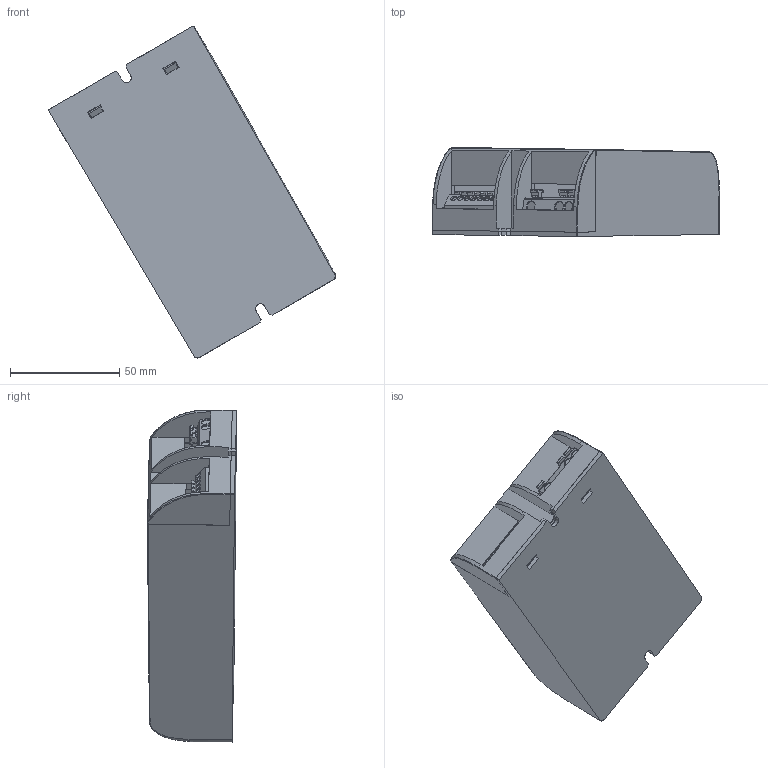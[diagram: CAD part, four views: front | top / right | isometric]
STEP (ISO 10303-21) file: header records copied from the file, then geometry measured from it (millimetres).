
FILE_DESCRIPTION((''),'2;1');
FILE_NAME('EUCI-0XX105GIA_ASS-20230703_ASM','2023-07-03T17:21:44',('HUNGCHI.CHEN'),(''),'CREO PARAMETRIC BY PTC INC, 2020053','CREO PARAMETRIC BY PTC INC, 2020053','');
FILE_SCHEMA(('CONFIG_CONTROL_DESIGN'));
Products named in the file (48): BOARD-593; 3411000700; J102_ASM; CY100_AF0_ASM; 1511442002_0603-SCE-C-10990_1; 1511442002_0603-SCE-C-10990_2; 1511442002_0603-SCE-C-10990_3; 1511442002_0603-SCE-C-10990_ASM; C118_1_ASM; 0341083342_0603-15-12230_1; 0341083342_0603-15-12230_2; 0341083342_0603-15-12230_3; 0341083342_0603-15-12230_4; 0341083342_0603-15-12230_ASM; R118_1_ASM; R117_1_ASM; FCM1608_1_2_1; FCM1608_1_2_2; FCM1608_1_2_3; FCM1608_1_2_ASM; FB110_ASM; FB109_ASM; 0331147506_2512_1_2_1; 0331147506_2512_1_2_2; 0331147506_2512_1_2_3; 0331147506_2512_1_2_4; 0331147506_2512_1_2_ASM; R32_1_ASM; CY4_AF0_ASM; DG202-5_0-03P-1Y-162A_H_; CN1_1_ASM; DG250-3_5-07P-1Y-965A_H_; CN101_1_ASM; CY1_1_AF0_ASM; CY3_AF0_ASM; 0311004001_1206-21-60566_1; 0311004001_1206-21-60566_2; 0311004001_1206-21-60566_3; 0311004001_1206-21-60566_4; 0311004001_1206-21-60566_ASM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
Assembly tree (48 placements, depth 5):
  EUCI-0XX105GIA_ASS-20230703_ASM
    PCB_1_AF0_ASM
      BOARD-593
      J102_ASM
        3411000700
      CY100_AF0_ASM
      C118_1_ASM
        1511442002_0603-SCE-C-10990_ASM
          1511442002_0603-SCE-C-10990_1
          1511442002_0603-SCE-C-10990_2
          1511442002_0603-SCE-C-10990_3
      R118_1_ASM
        0341083342_0603-15-12230_ASM
          0341083342_0603-15-12230_1
          0341083342_0603-15-12230_2
          0341083342_0603-15-12230_3
          0341083342_0603-15-12230_4
      R117_1_ASM
        0341083342_0603-15-12230_ASM
          0341083342_0603-15-12230_1
          0341083342_0603-15-12230_2
          0341083342_0603-15-12230_3
          0341083342_0603-15-12230_4
      FB110_ASM
        FCM1608_1_2_ASM
          FCM1608_1_2_1
          FCM1608_1_2_2
          FCM1608_1_2_3
      FB109_ASM
      R32_1_ASM
        0331147506_2512_1_2_ASM
          0331147506_2512_1_2_1
          0331147506_2512_1_2_2
          0331147506_2512_1_2_3
          0331147506_2512_1_2_4
      CY4_AF0_ASM
      CN1_1_ASM
        DG202-5_0-03P-1Y-162A_H_
      CN101_1_ASM
        DG250-3_5-07P-1Y-965A_H_
      CY1_1_AF0_ASM
      CY3_AF0_ASM
      R102_1_ASM
        0311004001_1206-21-60566_ASM
          0311004001_1206-21-60566_1
          0311004001_1206-21-60566_2
          0311004001_1206-21-60566_3
          0311004001_1206-21-60566_4
      FL100_AF0_ASM
        316785_ASM_ASM_AF0_ASM
      FREE-MODELS_AF0_ASM
        HOUSING_20180726
    COVER-20180726
Bounding box: 131.76 x 40.94 x 152.29 mm (x, y, z)
Volume: 77520.8 mm3; surface area: 95629.4 mm2
Topology: 28 solids, 64 shells, 2509 faces, 6972 edges, 4611 vertices
Faces by surface type: plane 1753, cylinder 643, cone 42, bspline 27, sphere 19, extrusion 19, torus 4, revolution 2
Entity records: 83119 total; most frequent: CARTESIAN_POINT 17495, ORIENTED_EDGE 13736, DIRECTION 13002, EDGE_CURVE 6868, VECTOR 5302, LINE 5283, VERTEX_POINT 4547, AXIS2_PLACEMENT_3D 3849
